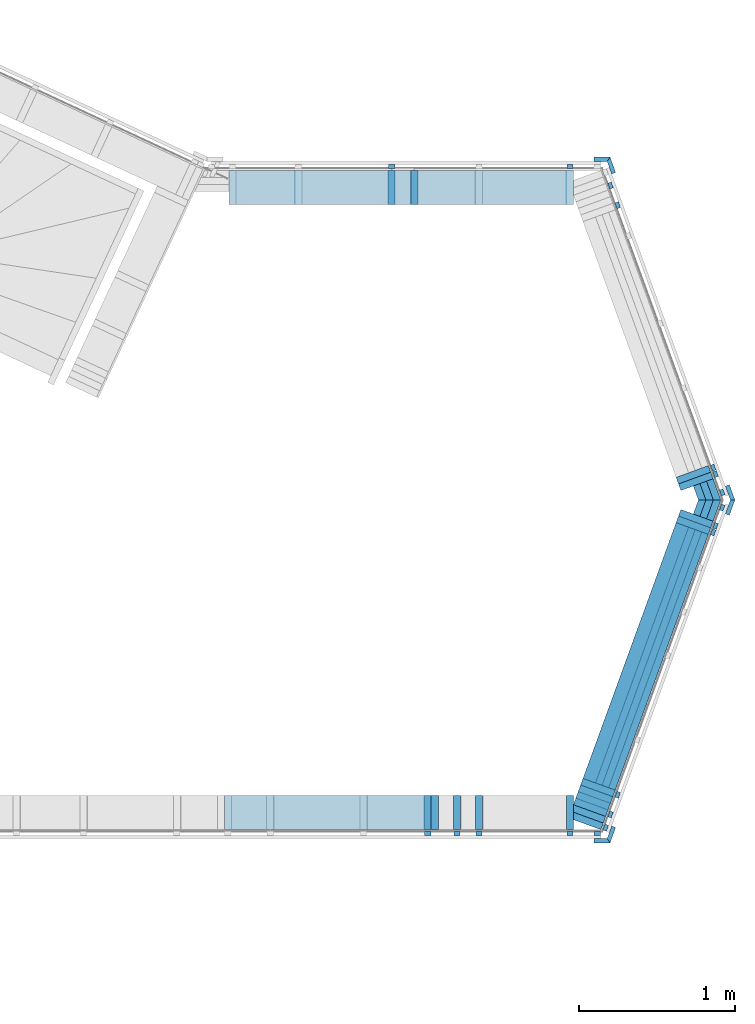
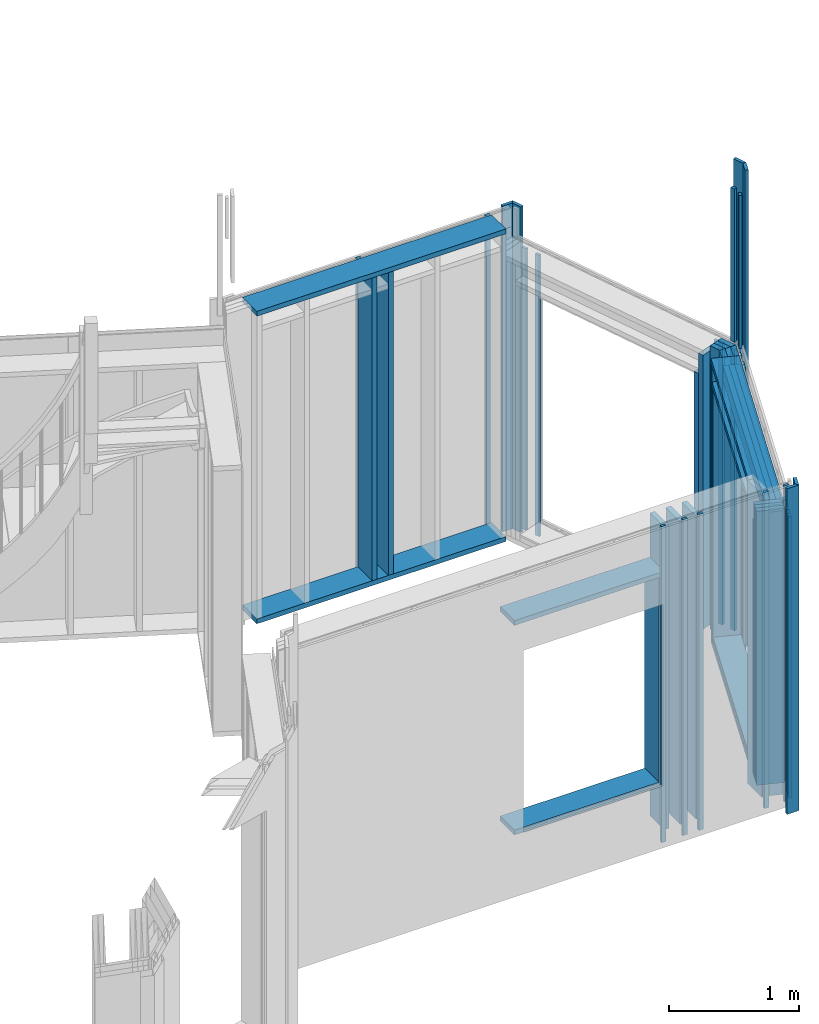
# One storey, part 16 of 34: 61 members.
"""IFC2X3 building model written with IfcOpenShell, lengths in metres."""

import ifcopenshell
import ifcopenshell.guid

model = None  # the IFC model being written
_history = None  # IfcOwnerHistory: only IFC2X3 demands one
_inside = {}  # id of a spatial element -> (the spatial element, [elements in it])
_under = {}  # id of a project, library or spatial element -> (it, [spatial elements below it])
_declared = {}  # id of a project -> (the project, [libraries it declares])
_typed = {}  # id of a type object -> (the type object, [elements of that type])
_made_of = {}  # id of a material, layer set ... -> (it, [elements and type objects made of it])


def new_model(schema):
    """Start an empty IFC model of exactly this schema.

    Asked for "IFC4X3", IfcOpenShell would pick the latest addendum, in which some entities
    have other attributes; the version numbers below select the first issue.
    IFC2X3 requires an IfcOwnerHistory on every rooted entity: one is made here for all.
    """
    global model, _history
    if schema == "IFC4X3":
        model = ifcopenshell.file(schema_version=(4, 3, 0, 0))
    else:
        model = ifcopenshell.file(schema=schema)
    _inside.clear()
    _under.clear()
    _declared.clear()
    _typed.clear()
    _made_of.clear()
    _history = None
    if model.schema == "IFC2X3":
        org = make("IfcOrganization", Name="unknown")
        user = make(
            "IfcPersonAndOrganization",
            ThePerson=make("IfcPerson", FamilyName="unknown"),
            TheOrganization=org,
        )
        app = make(
            "IfcApplication",
            ApplicationDeveloper=org,
            Version="unknown",
            ApplicationFullName="unknown",
            ApplicationIdentifier="unknown",
        )
        _history = make(
            "IfcOwnerHistory",
            OwningUser=user,
            OwningApplication=app,
            ChangeAction="ADDED",
            CreationDate=0,
        )
    return model


def make(cls, **values):
    """One entity of the class cls with the attributes given. An attribute that is None is left unset."""
    return model.create_entity(
        cls, **{name: value for name, value in values.items() if value is not None}
    )


def rooted(cls, **values):
    """An entity with a GlobalId (a new one), such as an element, a storey or a relation."""
    return make(cls, GlobalId=ifcopenshell.guid.new(), OwnerHistory=_history, **values)


def si_unit(unit_type, name, prefix=None):
    """IfcSIUnit, for example si_unit("LENGTHUNIT", "METRE", prefix="MILLI")."""
    return make("IfcSIUnit", UnitType=unit_type, Prefix=prefix, Name=name)


def assignment(units):
    """IfcUnitAssignment: the units of a project."""
    return None if units is None else make("IfcUnitAssignment", Units=units)


def point(xyz):
    """IfcCartesianPoint."""
    return None if xyz is None else make("IfcCartesianPoint", Coordinates=xyz)


def direction(xyz):
    """IfcDirection."""
    return None if xyz is None else make("IfcDirection", DirectionRatios=xyz)


def frame(location, z_axis=None, x_axis=None):
    """IfcAxis2Placement3D, a coordinate frame: its origin and axes. An axis left out is left unset."""
    return make(
        "IfcAxis2Placement3D",
        Location=point(location),
        Axis=direction(z_axis),
        RefDirection=direction(x_axis),
    )


def origin_with_axes():
    """The frame at (0, 0, 0) with the z axis (0, 0, 1) and the x axis (1, 0, 0) written out."""
    return frame((0.0, 0.0, 0.0), z_axis=(0.0, 0.0, 1.0), x_axis=(1.0, 0.0, 0.0))


def place(relative_to, where):
    """IfcLocalPlacement: puts the frame where relative to a parent placement (None: the world)."""
    return make(
        "IfcLocalPlacement", PlacementRelTo=relative_to, RelativePlacement=where
    )


def context(
    kind, dimensions, precision=None, world=None, true_north=None, identifier=None
):
    """IfcGeometricRepresentationContext, for example the 3D "Model" context."""
    return make(
        "IfcGeometricRepresentationContext",
        ContextIdentifier=identifier,
        ContextType=kind,
        CoordinateSpaceDimension=dimensions,
        Precision=precision,
        WorldCoordinateSystem=world,
        TrueNorth=true_north,
    )


def subcontext(parent, identifier, kind, view, scale=None):
    """IfcGeometricRepresentationSubContext, for example "Body" below "Model"."""
    return make(
        "IfcGeometricRepresentationSubContext",
        ContextIdentifier=identifier,
        ContextType=kind,
        ParentContext=parent,
        TargetScale=scale,
        TargetView=view,
    )


def project(units=None, contexts=None):
    """IfcProject with its units and contexts."""
    return rooted(
        "IfcProject",
        Name="project",
        RepresentationContexts=contexts,
        UnitsInContext=assignment(units),
    )


def spatial(cls, under=None, at=None, **own):
    """A site, building, storey or space (cls), placed at a placement, below another one or the project."""
    s = rooted(cls, ObjectPlacement=at, **own)
    if under is not None:
        _under.setdefault(under.id(), (under, []))[1].append(s)
    return s


def faces_of(points, faces, orient=None, outer=None):
    """IfcFace entities. A face is a list of loops; a loop is a list of indices into points, from 0.

    orient and outer hold one flag for each loop. By default every Orientation is true, the
    first loop of a face is its IfcFaceOuterBound and the others are IfcFaceBound.
    """
    made = []
    for i, loops in enumerate(faces):
        bounds = []
        for j, loop in enumerate(loops):
            is_outer = j == 0 if outer is None else outer[i][j]
            bounds.append(
                make(
                    "IfcFaceOuterBound" if is_outer else "IfcFaceBound",
                    Bound=make("IfcPolyLoop", Polygon=[points[k] for k in loop]),
                    Orientation=True if orient is None else orient[i][j],
                )
            )
        made.append(make("IfcFace", Bounds=bounds))
    return made


def faceted_brep(points, faces, orient=None, outer=None, voids=None):
    """IfcFacetedBrep: a solid bounded by flat faces; with voids (closed shells), ...WithVoids."""
    shared = [point(p) for p in points]
    hull = make("IfcClosedShell", CfsFaces=faces_of(shared, faces, orient, outer))
    if voids is None:
        return make("IfcFacetedBrep", Outer=hull)
    return make(
        "IfcFacetedBrepWithVoids",
        Outer=hull,
        Voids=[
            make(cls, CfsFaces=faces_of(shared, fs, o, b)) for cls, fs, o, b in voids
        ],
    )


def shape(context_of_items, identifier, shape_type, items):
    """IfcShapeRepresentation: the items that make up one representation, for example the "Body"."""
    return make(
        "IfcShapeRepresentation",
        ContextOfItems=context_of_items,
        RepresentationIdentifier=identifier,
        RepresentationType=shape_type,
        Items=items,
    )


def material(Name=None, Category=None):
    """IfcMaterial."""
    return make("IfcMaterial", Name=Name, Category=Category)


def made_of(thing, what):
    """Note that an element or type object is made of a material, layer set ...; save() writes the relation."""
    if what is not None:
        _made_of.setdefault(what.id(), (what, []))[1].append(thing)
    return thing


def element(
    cls,
    number,
    at=None,
    inside=None,
    cuts=None,
    type_object=None,
    material=None,
    context=None,
    identifier="Body",
    shape_type=None,
    held_by="IfcProductDefinitionShape",
    body=None,
    shapes=None,
    **own,
):
    """One element of the class cls, such as IfcWall. Its Tag is "e" and its number.

    at: its placement. inside: the storey or other place that contains it. cuts: it is an
    opening in that element (IfcRelVoidsElement). A single representation is given by context,
    identifier, shape_type and body (its items); several are given by shapes. held_by: the class
    of the entity that holds the representations. save() writes the other relations.
    """
    e = rooted(cls, Tag="e%d" % number, ObjectPlacement=at, **own)
    if body is not None:
        shapes = [shape(context, identifier, shape_type, body)]
    if shapes is not None:
        e.Representation = make(held_by, Representations=shapes)
    if inside is not None:
        _inside.setdefault(inside.id(), (inside, []))[1].append(e)
    if cuts is not None:
        rooted(
            "IfcRelVoidsElement", RelatingBuildingElement=cuts, RelatedOpeningElement=e
        )
    if type_object is not None:
        _typed.setdefault(type_object.id(), (type_object, []))[1].append(e)
    return made_of(e, material)


def aggregate(whole, parts):
    """IfcRelAggregates: a whole, such as a stair, and the parts it consists of."""
    return rooted("IfcRelAggregates", RelatingObject=whole, RelatedObjects=parts)


def save(model, path):
    """Write the relations noted so far, then the file.

    IfcRelAggregates (storeys below a building ...), IfcRelContainedInSpatialStructure (elements
    in a storey), IfcRelDefinesByType, IfcRelAssociatesMaterial and IfcRelDeclares: one each for
    every whole, place, type object, material and project.
    """
    for whole, parts in _under.values():
        aggregate(whole, parts)
    for where, things in _inside.values():
        rooted(
            "IfcRelContainedInSpatialStructure",
            RelatedElements=things,
            RelatingStructure=where,
        )
    for kind, things in _typed.values():
        rooted("IfcRelDefinesByType", RelatedObjects=things, RelatingType=kind)
    for what, things in _made_of.values():
        rooted("IfcRelAssociatesMaterial", RelatedObjects=things, RelatingMaterial=what)
    for by, libraries in _declared.values():
        rooted("IfcRelDeclares", RelatingContext=by, RelatedDefinitions=libraries)
    model.write(path)


model = new_model("IFC2X3")

# Units and contexts
model_context = context("Model", 3, precision=1e-06, world=origin_with_axes(), true_north=direction((0.0, 1.0, 0.0)))
body_context = subcontext(model_context, "Body", "Model", "MODEL_VIEW")
ifc_project = project(units=[si_unit("LENGTHUNIT", "METRE"), si_unit("AREAUNIT", "SQUARE_METRE"), si_unit("VOLUMEUNIT", "CUBIC_METRE"), si_unit("PLANEANGLEUNIT", "RADIAN")], contexts=[model_context])

# Site, building, storey
site_placement = place(None, origin_with_axes())
site = spatial("IfcSite", under=ifc_project, at=site_placement, CompositionType="ELEMENT")
building_placement = place(site_placement, origin_with_axes())
building = spatial("IfcBuilding", under=site, at=building_placement, Name="Building 1", CompositionType="ELEMENT")
storey_placement = place(building_placement, origin_with_axes())
storey = spatial("IfcBuildingStorey", under=building, at=storey_placement, Name="Rez de chaussée", CompositionType="ELEMENT", Elevation=0.0)

# Members
ifc_material_1 = material(Name="Epicéa C24")
member_1_placement = place(storey_placement, frame((18.475138, 1.8625167, 2.71), z_axis=(0.3420201, -0.9396926, 0.0), x_axis=(0.0, 0.0, -1.0)))
element("IfcMember", 1, at=member_1_placement, inside=storey, material=ifc_material_1, Name="Montant", context=body_context, shape_type="Brep", body=[
    faceted_brep([(0.0, 0.0225, 0.0643107), (2.665, 0.0225, 0.0643107), (2.665, 0.0225, -0.0643107), (0.0, 0.0225, -0.0643107), (2.665, -0.0225, -0.0643107), (0.0, -0.0225, -0.0643107), (2.665, -0.0225, 0.047932), (0.0, -0.0225, 0.047932)], [[[0, 1, 2, 3]], [[2, 4, 5, 3]], [[6, 7, 5, 4]], [[7, 0, 3, 5]], [[6, 1, 0, 7]], [[1, 6, 4, 2]]]),
])
member_2_placement = place(storey_placement, frame((18.3824237, 1.6265743, 0.1125), z_axis=(0.9396926, -0.3420201, 0.0), x_axis=(-0.3420201, -0.9396926, 0.0)))
element("IfcMember", 2, at=member_2_placement, inside=storey, material=ifc_material_1, Name="Montant", context=body_context, shape_type="Brep", body=[
    faceted_brep([(0.0, -0.0225, 0.11), (1.7489284, -0.0225, 0.11), (1.7489284, 0.0225, 0.11), (0.0, 0.0225, 0.11), (1.7489284, -0.0225, -0.11), (1.7489284, 0.0225, -0.11), (0.0, -0.0225, -0.11), (0.0, 0.0225, -0.11)], [[[0, 1, 2, 3]], [[1, 4, 5, 2]], [[5, 4, 6, 7]], [[4, 1, 0, 6]], [[7, 6, 0, 3]], [[2, 5, 7, 3]]]),
])
member_3_placement = place(storey_placement, frame((17.6193251, 3.8177799, 2.9575), z_axis=(0.0, -1.0, 0.0), x_axis=(-1.0, 0.0, 0.0)))
element("IfcMember", 3, at=member_3_placement, inside=storey, material=ifc_material_1, Name="Montant", context=body_context, shape_type="Brep", body=[
    faceted_brep([(2.2141942, 0.0225, 0.11), (2.2141942, -0.0225, 0.11), (2.2141942, -0.0225, -0.11), (2.2141942, 0.0225, -0.11), (0.0, -0.0225, -0.11), (0.0, -0.0225, 0.11), (0.0, 0.0225, -0.11), (0.0, 0.0225, 0.11)], [[[0, 1, 2, 3]], [[4, 2, 1, 5]], [[6, 3, 2, 4]], [[7, 0, 3, 6]], [[5, 1, 0, 7]], [[5, 7, 6, 4]]]),
])
member_4_placement = place(storey_placement, frame((17.9034179, 3.7037565, 2.65), z_axis=(0.9396926, 0.3420201, 0.0), x_axis=(0.0, 0.0, -1.0)))
element("IfcMember", 4, at=member_4_placement, inside=storey, material=ifc_material_1, Name="latte 27/40", context=body_context, shape_type="Brep", body=[
    faceted_brep([(0.0, 0.02, 0.012), (0.0, -0.02, 0.012), (2.645, -0.02, 0.012), (2.645, 0.02, 0.012), (2.645, -0.02, -0.012), (2.645, 0.02, -0.012), (0.0, 0.02, -0.012), (0.0, -0.02, -0.012)], [[[0, 1, 2, 3]], [[3, 2, 4, 5]], [[0, 3, 5, 6]], [[1, 0, 6, 7]], [[7, 6, 5, 4]], [[2, 1, 7, 4]]]),
])
member_5_placement = place(storey_placement, frame((17.8264634, -0.2956275, 2.65), z_axis=(0.9396926, -0.3420201, 0.0), x_axis=(0.0, 0.0, -1.0)))
element("IfcMember", 5, at=member_5_placement, inside=storey, material=ifc_material_1, Name="latte chantier", context=body_context, shape_type="Brep", body=[
    faceted_brep([(2.645, -0.02, 0.012), (2.645, 0.02, 0.012), (0.0, 0.02, 0.012), (0.0, -0.02, 0.012), (0.0, 0.02, -0.012), (0.0, -0.02, -0.012), (2.645, 0.02, -0.012), (2.645, -0.02, -0.012)], [[[0, 1, 2, 3]], [[3, 2, 4, 5]], [[2, 1, 6, 4]], [[1, 0, 7, 6]], [[6, 7, 5, 4]], [[0, 3, 5, 7]]]),
])
ifc_material_2 = material(Name="NH II")
member_6_placement = place(storey_placement, frame((18.6259778, 1.8544964, -0.08), z_axis=(-0.3420201, 0.9396926, 0.0), x_axis=(0.0, 0.0, 1.0)))
element("IfcMember", 6, at=member_6_placement, inside=storey, material=ifc_material_2, Name="Couvre joint", context=body_context, shape_type="Brep", body=[
    faceted_brep([(0.0, -0.0135, -0.0426728), (0.0, 0.0135, -0.0525), (4.4753223, 0.0135, -0.0525), (4.4753223, -0.0135, -0.0426728), (0.0, -0.0135, 0.0525), (0.0, 0.0135, 0.0525), (4.4753223, 0.0135, 0.0525), (4.4753223, -0.0135, 0.0525)], [[[0, 1, 2, 3]], [[1, 0, 4, 5]], [[3, 2, 6, 7]], [[0, 3, 7, 4]], [[6, 5, 4, 7]], [[2, 1, 5, 6]]]),
])
member_7_placement = place(storey_placement, frame((18.6259778, 1.7650633, -0.08), z_axis=(-0.3420201, -0.9396926, 0.0), x_axis=(0.0, 0.0, 1.0)))
element("IfcMember", 7, at=member_7_placement, inside=storey, material=ifc_material_2, Name="Couvre joint", context=body_context, shape_type="Brep", body=[
    faceted_brep([(0.0, -0.0135, -0.0525), (0.0, 0.0135, -0.0426728), (4.4753223, 0.0135, -0.0426728), (4.4753223, -0.0135, -0.0525), (0.0, 0.0135, 0.0525), (4.4753223, 0.0135, 0.0525), (0.0, -0.0135, 0.0525), (4.4753223, -0.0135, 0.0525)], [[[0, 1, 2, 3]], [[2, 1, 4, 5]], [[1, 0, 6, 4]], [[3, 2, 5, 7]], [[7, 6, 0, 3]], [[5, 4, 6, 7]]]),
])
member_8_placement = place(storey_placement, frame((17.8600635, -0.3392689, -0.08), z_axis=(-0.3420201, -0.9396926, 0.0), x_axis=(0.0, 0.0, 1.0)))
element("IfcMember", 8, at=member_8_placement, inside=storey, material=ifc_material_2, Name="Couvre joint", context=body_context, shape_type="Brep", body=[
    faceted_brep([(0.0, 0.0135, 0.0335944), (0.0, -0.0135, 0.0525), (3.06, -0.0135, 0.0525), (3.06, 0.0135, 0.0335944), (0.0, 0.0135, -0.0525), (0.0, -0.0135, -0.0525), (3.06, -0.0135, -0.0525), (3.06, 0.0135, -0.0525)], [[[0, 1, 2, 3]], [[1, 0, 4, 5]], [[3, 2, 6, 7]], [[6, 5, 4, 7]], [[2, 1, 5, 6]], [[0, 3, 7, 4]]]),
])
member_9_placement = place(storey_placement, frame((16.6830365, -0.33322, 2.975), z_axis=(0.0, -1.0, 0.0), x_axis=(0.0, 0.0, -1.0)))
element("IfcMember", 9, at=member_9_placement, inside=storey, material=ifc_material_1, Name="latte 27/40", context=body_context, shape_type="Brep", body=[
    faceted_brep([(2.97, -0.02, 0.012), (2.97, 0.02, 0.012), (0.0, 0.02, 0.012), (0.0, -0.02, 0.012), (0.0, 0.02, -0.012), (0.0, -0.02, -0.012), (2.97, 0.02, -0.012), (2.97, -0.02, -0.012)], [[[0, 1, 2, 3]], [[3, 2, 4, 5]], [[2, 1, 6, 4]], [[1, 0, 7, 6]], [[6, 7, 5, 4]], [[0, 3, 5, 7]]]),
])
member_10_placement = place(storey_placement, frame((17.8022933, -0.3797201, -0.08), z_axis=(-1.0, 0.0, 0.0), x_axis=(0.0, 0.0, 1.0)))
element("IfcMember", 10, at=member_10_placement, inside=storey, material=ifc_material_2, Name="Couvre joint", context=body_context, shape_type="Brep", body=[
    faceted_brep([(0.0, -0.0135, -0.0525), (0.0, 0.0135, -0.0335944), (3.06, 0.0135, -0.0335944), (3.06, -0.0135, -0.0525), (0.0, 0.0135, 0.0525), (3.06, 0.0135, 0.0525), (0.0, -0.0135, 0.0525), (3.06, -0.0135, 0.0525)], [[[0, 1, 2, 3]], [[2, 1, 4, 5]], [[1, 0, 6, 4]], [[3, 2, 5, 7]], [[7, 6, 0, 3]], [[5, 4, 6, 7]]]),
])
member_11_placement = place(storey_placement, frame((17.8022933, 3.9992799, -0.08), z_axis=(-1.0, 0.0, 0.0), x_axis=(0.0, 0.0, 1.0)))
element("IfcMember", 11, at=member_11_placement, inside=storey, material=ifc_material_2, Name="Couvre joint", context=body_context, shape_type="Brep", body=[
    faceted_brep([(0.0, 0.0135, -0.0525), (3.06, 0.0135, -0.0525), (3.06, -0.0135, -0.0335944), (0.0, -0.0135, -0.0335944), (3.06, -0.0135, 0.0525), (0.0, -0.0135, 0.0525), (3.06, 0.0135, 0.0525), (0.0, 0.0135, 0.0525)], [[[0, 1, 2, 3]], [[3, 2, 4, 5]], [[2, 1, 6, 4]], [[0, 3, 5, 7]], [[6, 7, 5, 4]], [[1, 0, 7, 6]]]),
])
member_12_placement = place(storey_placement, frame((17.8600635, 3.9588288, -0.08), z_axis=(-0.3420201, 0.9396926, 0.0), x_axis=(0.0, 0.0, 1.0)))
element("IfcMember", 12, at=member_12_placement, inside=storey, material=ifc_material_2, Name="Couvre joint", context=body_context, shape_type="Brep", body=[
    faceted_brep([(0.0, 0.0135, 0.0525), (0.0, -0.0135, 0.0335944), (3.06, -0.0135, 0.0335944), (3.06, 0.0135, 0.0525), (0.0, -0.0135, -0.0525), (3.06, -0.0135, -0.0525), (0.0, 0.0135, -0.0525), (3.06, 0.0135, -0.0525)], [[[0, 1, 2, 3]], [[2, 1, 4, 5]], [[1, 0, 6, 4]], [[3, 2, 5, 7]], [[5, 4, 6, 7]], [[7, 6, 0, 3]]]),
])
member_13_placement = place(storey_placement, frame((17.012216, -0.19822, 2.935), z_axis=(0.0, -1.0, 0.0), x_axis=(0.0, 0.0, -1.0)))
element("IfcMember", 13, at=member_13_placement, inside=storey, material=ifc_material_1, Name="Montant", context=body_context, shape_type="Brep", body=[
    faceted_brep([(2.845, -0.0225, -0.11), (2.845, 0.0225, -0.11), (2.845, 0.0225, 0.11), (2.845, -0.0225, 0.11), (0.0, -0.0225, 0.11), (0.0, -0.0225, -0.11), (0.0, 0.0225, -0.11), (0.0, 0.0225, 0.11)], [[[0, 1, 2, 3]], [[0, 3, 4, 5]], [[1, 0, 5, 6]], [[2, 1, 6, 7]], [[3, 2, 7, 4]], [[4, 7, 6, 5]]]),
])
member_14_placement = place(storey_placement, frame((17.012216, -0.33322, 2.975), z_axis=(0.0, -1.0, 0.0), x_axis=(0.0, 0.0, -1.0)))
element("IfcMember", 14, at=member_14_placement, inside=storey, material=ifc_material_1, Name="latte 27/40", context=body_context, shape_type="Brep", body=[
    faceted_brep([(2.97, -0.02, 0.012), (2.97, 0.02, 0.012), (0.0, 0.02, 0.012), (0.0, -0.02, 0.012), (0.0, 0.02, -0.012), (0.0, -0.02, -0.012), (2.97, 0.02, -0.012), (2.97, -0.02, -0.012)], [[[0, 1, 2, 3]], [[3, 2, 4, 5]], [[2, 1, 6, 4]], [[1, 0, 7, 6]], [[6, 7, 5, 4]], [[0, 3, 5, 7]]]),
])
member_15_placement = place(storey_placement, frame((18.3901191, 1.6477174, 2.475), z_axis=(0.9396926, -0.3420201, 0.0), x_axis=(0.0, 0.0, -1.0)))
element("IfcMember", 15, at=member_15_placement, inside=storey, material=ifc_material_1, Name="Montant", context=body_context, shape_type="Brep", body=[
    faceted_brep([(2.385, -0.0225, -0.11), (2.385, 0.0225, -0.11), (2.385, 0.0225, 0.11), (2.385, -0.0225, 0.11), (0.0, -0.0225, 0.11), (0.0, -0.0225, -0.11), (0.0, 0.0225, -0.11), (0.0, 0.0225, 0.11)], [[[0, 1, 2, 3]], [[0, 3, 4, 5]], [[1, 0, 5, 6]], [[2, 1, 6, 7]], [[3, 2, 7, 4]], [[4, 7, 6, 5]]]),
])
member_16_placement = place(storey_placement, frame((17.5968251, 3.9527799, 2.975), z_axis=(0.0, 1.0, 0.0), x_axis=(0.0, 0.0, -1.0)))
element("IfcMember", 16, at=member_16_placement, inside=storey, material=ifc_material_1, Name="latte 27/40", context=body_context, shape_type="Brep", body=[
    faceted_brep([(2.97, -0.02, 0.012), (2.97, 0.02, 0.012), (0.0, 0.02, 0.012), (0.0, -0.02, 0.012), (0.0, 0.02, -0.012), (0.0, -0.02, -0.012), (2.97, 0.02, -0.012), (2.97, -0.02, -0.012)], [[[0, 1, 2, 3]], [[3, 2, 4, 5]], [[2, 1, 6, 4]], [[1, 0, 7, 6]], [[6, 7, 5, 4]], [[0, 3, 5, 7]]]),
])
member_17_placement = place(storey_placement, frame((16.7280365, -0.19822, 2.935), z_axis=(0.0, -1.0, 0.0), x_axis=(0.0, 0.0, -1.0)))
element("IfcMember", 17, at=member_17_placement, inside=storey, material=ifc_material_1, Name="Montant", context=body_context, shape_type="Brep", body=[
    faceted_brep([(2.845, -0.0225, -0.11), (2.845, 0.0225, -0.11), (2.845, 0.0225, 0.11), (2.845, -0.0225, 0.11), (0.0, -0.0225, 0.11), (0.0, -0.0225, -0.11), (0.0, 0.0225, -0.11), (0.0, 0.0225, 0.11)], [[[0, 1, 2, 3]], [[0, 3, 4, 5]], [[1, 0, 5, 6]], [[2, 1, 6, 7]], [[3, 2, 7, 4]], [[4, 7, 6, 5]]]),
])
for number, where, z_axis, x_axis, name in (
    (18, (16.7055365, -0.19822, 2.4975), (0.0, -1.0, 0.0), (-1.0, 0.0, 0.0), "Montant"),
    (19, (16.7055365, -0.19822, 0.5295), (0.0, -1.0, 0.0), (-1.0, 0.0, 0.0), "Montant"),
):
    element("IfcMember", number, at=place(storey_placement, frame(where, z_axis=z_axis, x_axis=x_axis)), inside=storey, material=ifc_material_1, Name=name, context=body_context, shape_type="Brep", body=[
        faceted_brep([(0.0, 0.0225, -0.11), (0.0, -0.0225, -0.11), (0.0, -0.0225, 0.11), (0.0, 0.0225, 0.11), (1.33, 0.0225, -0.11), (1.33, -0.0225, -0.11), (1.33, 0.0225, 0.11), (1.33, -0.0225, 0.11)], [[[0, 1, 2, 3]], [[1, 0, 4, 5]], [[0, 3, 6, 4]], [[5, 4, 6, 7]], [[2, 1, 5, 7]], [[3, 2, 7, 6]]]),
    ])
member_18_placement = place(storey_placement, frame((16.6830365, -0.19822, 2.475), z_axis=(0.0, -1.0, 0.0), x_axis=(0.0, 0.0, -1.0)))
element("IfcMember", 20, at=member_18_placement, inside=storey, material=ifc_material_1, Name="Montant", context=body_context, shape_type="Brep", body=[
    faceted_brep([(1.923, -0.0225, -0.11), (1.923, -0.0225, 0.11), (0.0, -0.0225, 0.11), (0.0, -0.0225, -0.11), (1.923, 0.0225, -0.11), (0.0, 0.0225, -0.11), (1.923, 0.0225, 0.11), (0.0, 0.0225, 0.11)], [[[0, 1, 2, 3]], [[4, 0, 3, 5]], [[6, 4, 5, 7]], [[1, 6, 7, 2]], [[0, 4, 6, 1]], [[2, 7, 5, 3]]]),
])
member_19_placement = place(storey_placement, frame((17.903418, -0.0841966, 2.65), z_axis=(0.9396926, -0.3420201, 0.0), x_axis=(0.0, 0.0, -1.0)))
element("IfcMember", 21, at=member_19_placement, inside=storey, material=ifc_material_1, Name="latte 27/40", context=body_context, shape_type="Brep", body=[
    faceted_brep([(2.645, -0.02, 0.012), (2.645, 0.02, 0.012), (0.0, 0.02, 0.012), (0.0, -0.02, 0.012), (0.0, 0.02, -0.012), (0.0, -0.02, -0.012), (2.645, 0.02, -0.012), (2.645, -0.02, -0.012)], [[[0, 1, 2, 3]], [[3, 2, 4, 5]], [[2, 1, 6, 4]], [[1, 0, 7, 6]], [[6, 7, 5, 4]], [[0, 3, 5, 7]]]),
])
member_20_placement = place(storey_placement, frame((17.7611686, -0.0803101, 2.665), z_axis=(0.9396926, -0.3420201, 0.0), x_axis=(0.0, 0.0, -1.0)))
element("IfcMember", 22, at=member_20_placement, inside=storey, material=ifc_material_1, Name="Montant", context=body_context, shape_type="Brep", body=[
    faceted_brep([(2.575, -0.0225, -0.11), (2.575, 0.0225, -0.11), (2.575, 0.0225, 0.11), (2.575, -0.0225, 0.11), (0.0, -0.0225, 0.11), (0.0, -0.0225, -0.11), (0.0, 0.0225, -0.11), (0.0, 0.0225, 0.11)], [[[0, 1, 2, 3]], [[0, 3, 4, 5]], [[1, 0, 5, 6]], [[2, 1, 6, 7]], [[3, 2, 7, 4]], [[4, 7, 6, 5]]]),
])
member_21_placement = place(storey_placement, frame((18.3901191, 1.9718423, 2.475), z_axis=(0.9396926, 0.3420201, 0.0), x_axis=(0.0, 0.0, -1.0)))
element("IfcMember", 23, at=member_21_placement, inside=storey, material=ifc_material_1, Name="Montant", context=body_context, shape_type="Brep", body=[
    faceted_brep([(2.385, -0.0225, -0.11), (2.385, 0.0225, -0.11), (2.385, 0.0225, 0.11), (2.385, -0.0225, 0.11), (0.0, 0.0225, -0.11), (0.0, 0.0225, 0.11), (0.0, -0.0225, -0.11), (0.0, -0.0225, 0.11)], [[[0, 1, 2, 3]], [[2, 1, 4, 5]], [[1, 0, 6, 4]], [[0, 3, 7, 6]], [[3, 2, 5, 7]], [[7, 5, 4, 6]]]),
])
member_22_placement = place(storey_placement, frame((18.3824237, 1.6265743, 0.1435), z_axis=(0.9396926, -0.3420201, 0.0), x_axis=(-0.3420201, -0.9396926, 0.0)))
element("IfcMember", 24, at=member_22_placement, inside=storey, material=ifc_material_1, Name="Montant", context=body_context, shape_type="Brep", body=[
    faceted_brep([(0.0, -0.0085, 0.11), (1.7489284, -0.0085, 0.11), (1.7489284, 0.0085, 0.11), (0.0, 0.0085, 0.11), (0.0, -0.0085, -0.11), (1.7489284, -0.0085, -0.11), (0.0, 0.0085, -0.11), (1.7489284, 0.0085, -0.11)], [[[0, 1, 2, 3]], [[0, 4, 5, 1]], [[4, 0, 3, 6]], [[1, 5, 7, 2]], [[2, 7, 6, 3]], [[5, 4, 6, 7]]]),
])
member_23_placement = place(storey_placement, frame((17.7765595, -0.0380239, 2.475), z_axis=(0.9396926, -0.3420201, 0.0), x_axis=(0.0, 0.0, -1.0)))
element("IfcMember", 25, at=member_23_placement, inside=storey, material=ifc_material_1, Name="Montant", context=body_context, shape_type="Brep", body=[
    faceted_brep([(2.385, -0.0225, -0.11), (2.385, 0.0225, -0.11), (2.385, 0.0225, 0.11), (2.385, -0.0225, 0.11), (0.0, -0.0225, 0.11), (0.0, -0.0225, -0.11), (0.0, 0.0225, -0.11), (0.0, 0.0225, 0.11)], [[[0, 1, 2, 3]], [[0, 3, 4, 5]], [[1, 0, 5, 6]], [[2, 1, 6, 7]], [[3, 2, 7, 4]], [[4, 7, 6, 5]]]),
])
member_24_placement = place(storey_placement, frame((18.40551, 1.6900035, 2.665), z_axis=(0.9396926, -0.3420201, 0.0), x_axis=(0.0, 0.0, -1.0)))
element("IfcMember", 26, at=member_24_placement, inside=storey, material=ifc_material_1, Name="Montant", context=body_context, shape_type="Brep", body=[
    faceted_brep([(2.575, -0.0225, -0.11), (2.575, 0.0225, -0.11), (2.575, 0.0225, 0.11), (2.575, -0.0225, 0.11), (0.0, -0.0225, 0.11), (0.0, -0.0225, -0.11), (0.0, 0.0225, -0.11), (0.0, 0.0225, 0.11)], [[[0, 1, 2, 3]], [[0, 3, 4, 5]], [[1, 0, 5, 6]], [[2, 1, 6, 7]], [[3, 2, 7, 4]], [[4, 7, 6, 5]]]),
])
member_25_placement = place(storey_placement, frame((18.5169776, 1.6015447, 2.65), z_axis=(0.9396926, -0.3420201, 0.0), x_axis=(0.0, 0.0, -1.0)))
element("IfcMember", 27, at=member_25_placement, inside=storey, material=ifc_material_1, Name="latte 27/40", context=body_context, shape_type="Brep", body=[
    faceted_brep([(2.645, -0.02, 0.012), (2.645, 0.02, 0.012), (0.0, 0.02, 0.012), (0.0, -0.02, 0.012), (0.0, 0.02, -0.012), (0.0, -0.02, -0.012), (2.645, 0.02, -0.012), (2.645, -0.02, -0.012)], [[[0, 1, 2, 3]], [[3, 2, 4, 5]], [[2, 1, 6, 4]], [[1, 0, 7, 6]], [[6, 7, 5, 4]], [[0, 3, 5, 7]]]),
])
member_26_placement = place(storey_placement, frame((16.8708032, -0.19822, 2.935), z_axis=(0.0, -1.0, 0.0), x_axis=(0.0, 0.0, -1.0)))
element("IfcMember", 28, at=member_26_placement, inside=storey, material=ifc_material_1, Name="Montant", context=body_context, shape_type="Brep", body=[
    faceted_brep([(2.845, -0.0225, -0.11), (2.845, 0.0225, -0.11), (2.845, 0.0225, 0.11), (2.845, -0.0225, 0.11), (0.0, -0.0225, 0.11), (0.0, -0.0225, -0.11), (0.0, 0.0225, -0.11), (0.0, 0.0225, 0.11)], [[[0, 1, 2, 3]], [[0, 3, 4, 5]], [[1, 0, 5, 6]], [[2, 1, 6, 7]], [[3, 2, 7, 4]], [[4, 7, 6, 5]]]),
])
member_27_placement = place(storey_placement, frame((17.7303868, -0.1648824, 2.665), z_axis=(0.9396926, -0.3420201, 0.0), x_axis=(0.0, 0.0, -1.0)))
element("IfcMember", 29, at=member_27_placement, inside=storey, material=ifc_material_1, Name="Montant", context=body_context, shape_type="Brep", body=[
    faceted_brep([(2.575, -0.0225, -0.11), (2.575, 0.0225, -0.11), (2.575, 0.0225, 0.11), (2.575, -0.0225, 0.11), (0.0, -0.0225, 0.11), (0.0, -0.0225, -0.11), (0.0, 0.0225, -0.11), (0.0, 0.0225, 0.11)], [[[0, 1, 2, 3]], [[0, 3, 4, 5]], [[1, 0, 5, 6]], [[2, 1, 6, 7]], [[3, 2, 7, 4]], [[4, 7, 6, 5]]]),
])
member_28_placement = place(storey_placement, frame((16.8708032, -0.33322, 2.975), z_axis=(0.0, -1.0, 0.0), x_axis=(0.0, 0.0, -1.0)))
element("IfcMember", 30, at=member_28_placement, inside=storey, material=ifc_material_1, Name="latte 27/40", context=body_context, shape_type="Brep", body=[
    faceted_brep([(2.97, -0.02, 0.012), (2.97, 0.02, 0.012), (0.0, 0.02, 0.012), (0.0, -0.02, 0.012), (0.0, 0.02, -0.012), (0.0, -0.02, -0.012), (2.97, 0.02, -0.012), (2.97, -0.02, -0.012)], [[[0, 1, 2, 3]], [[3, 2, 4, 5]], [[2, 1, 6, 4]], [[1, 0, 7, 6]], [[6, 7, 5, 4]], [[0, 3, 5, 7]]]),
])
member_29_placement = place(storey_placement, frame((17.8572453, -0.2110551, 2.65), z_axis=(0.9396926, -0.3420201, 0.0), x_axis=(0.0, 0.0, -1.0)))
element("IfcMember", 31, at=member_29_placement, inside=storey, material=ifc_material_1, Name="latte 27/40", context=body_context, shape_type="Brep", body=[
    faceted_brep([(2.645, -0.02, 0.012), (2.645, 0.02, 0.012), (0.0, 0.02, 0.012), (0.0, -0.02, 0.012), (0.0, 0.02, -0.012), (0.0, -0.02, -0.012), (2.645, 0.02, -0.012), (2.645, -0.02, -0.012)], [[[0, 1, 2, 3]], [[3, 2, 4, 5]], [[2, 1, 6, 4]], [[1, 0, 7, 6]], [[6, 7, 5, 4]], [[0, 3, 5, 7]]]),
])
member_30_placement = place(storey_placement, frame((18.40551, 1.9295562, 2.665), z_axis=(0.9396926, 0.3420201, 0.0), x_axis=(0.0, 0.0, -1.0)))
element("IfcMember", 32, at=member_30_placement, inside=storey, material=ifc_material_1, Name="Montant", context=body_context, shape_type="Brep", body=[
    faceted_brep([(2.575, -0.0225, -0.11), (2.575, 0.0225, -0.11), (2.575, 0.0225, 0.11), (2.575, -0.0225, 0.11), (0.0, 0.0225, -0.11), (0.0, 0.0225, 0.11), (0.0, -0.0225, -0.11), (0.0, -0.0225, 0.11)], [[[0, 1, 2, 3]], [[2, 1, 4, 5]], [[1, 0, 6, 4]], [[0, 3, 7, 6]], [[3, 2, 5, 7]], [[7, 5, 4, 6]]]),
])
member_31_placement = place(storey_placement, frame((18.5202251, 1.8702121, 2.71), z_axis=(0.3420201, -0.9396926, 0.0), x_axis=(0.0, 0.0, -1.0)))
element("IfcMember", 33, at=member_31_placement, inside=storey, material=ifc_material_1, Name="Montant", context=body_context, shape_type="Brep", body=[
    faceted_brep([(0.0, 0.0225, 0.0725), (2.665, 0.0225, 0.0725), (2.665, 0.0225, -0.0725), (0.0, 0.0225, -0.0725), (2.665, -0.0225, -0.0725), (0.0, -0.0225, -0.0725), (2.665, -0.0225, 0.0561213), (0.0, -0.0225, 0.0561213)], [[[0, 1, 2, 3]], [[2, 4, 5, 3]], [[6, 7, 5, 4]], [[7, 0, 3, 5]], [[6, 1, 0, 7]], [[1, 6, 4, 2]]]),
])
member_32_placement = place(storey_placement, frame((18.5751211, 1.7612924, 4.1553223), z_axis=(0.9396926, -0.3420201, 0.0), x_axis=(0.0, 0.0, -1.0)))
element("IfcMember", 34, at=member_32_placement, inside=storey, material=ifc_material_1, Name="latte chantier", context=body_context, shape_type="Brep", body=[
    faceted_brep([(1.4403223, 0.02, -0.012), (1.4403223, 0.02, 0.012), (1.4403223, -0.02, 0.012), (1.4403223, -0.02, -0.012), (0.0, 0.02, 0.012), (0.0, 0.02, -0.012), (0.0, -0.02, -0.012), (0.0, -0.02, 0.012)], [[[0, 1, 2, 3]], [[4, 5, 6, 7]], [[3, 6, 5, 0]], [[2, 7, 6, 3]], [[1, 4, 7, 2]], [[0, 5, 4, 1]]]),
])
member_33_placement = place(storey_placement, frame((17.8572452, 3.830615, 2.65), z_axis=(0.9396926, 0.3420201, 0.0), x_axis=(0.0, 0.0, -1.0)))
element("IfcMember", 35, at=member_33_placement, inside=storey, material=ifc_material_1, Name="latte 27/40", context=body_context, shape_type="Brep", body=[
    faceted_brep([(0.0, 0.02, 0.012), (0.0, -0.02, 0.012), (2.645, -0.02, 0.012), (2.645, 0.02, 0.012), (2.645, -0.02, -0.012), (2.645, 0.02, -0.012), (0.0, 0.02, -0.012), (0.0, -0.02, -0.012)], [[[0, 1, 2, 3]], [[3, 2, 4, 5]], [[0, 3, 5, 6]], [[1, 0, 6, 7]], [[7, 6, 5, 4]], [[2, 1, 7, 4]]]),
])
member_34_placement = place(storey_placement, frame((17.7457777, -0.1225962, 2.665), z_axis=(0.9396926, -0.3420201, 0.0), x_axis=(0.0, 0.0, -1.0)))
element("IfcMember", 36, at=member_34_placement, inside=storey, material=ifc_material_1, Name="Montant", context=body_context, shape_type="Brep", body=[
    faceted_brep([(2.575, -0.0225, -0.11), (2.575, 0.0225, -0.11), (2.575, 0.0225, 0.11), (2.575, -0.0225, 0.11), (0.0, -0.0225, 0.11), (0.0, -0.0225, -0.11), (0.0, 0.0225, -0.11), (0.0, 0.0225, 0.11)], [[[0, 1, 2, 3]], [[0, 3, 4, 5]], [[1, 0, 5, 6]], [[2, 1, 6, 7]], [[3, 2, 7, 4]], [[4, 7, 6, 5]]]),
])
member_35_placement = place(storey_placement, frame((18.4300509, 1.7647385, 0.045), z_axis=(0.3420201, 0.9396926, 0.0), x_axis=(0.0, 0.0, 1.0)))
element("IfcMember", 37, at=member_35_placement, inside=storey, material=ifc_material_1, Name="Montant", context=body_context, shape_type="Brep", body=[
    faceted_brep([(0.0, 0.0225, 0.0561213), (2.665, 0.0225, 0.0561213), (2.665, 0.0225, -0.0561213), (0.0, 0.0225, -0.0561213), (0.0, -0.0225, -0.0561213), (2.665, -0.0225, -0.0561213), (2.665, -0.0225, 0.0397427), (0.0, -0.0225, 0.0397427)], [[[0, 1, 2, 3]], [[4, 3, 2, 5]], [[6, 7, 4, 5]], [[1, 6, 5, 2]], [[0, 7, 6, 1]], [[7, 0, 3, 4]]]),
])
member_36_placement = place(storey_placement, frame((17.7226913, -0.1860255, 0.0675), z_axis=(-0.9396926, 0.3420201, 0.0), x_axis=(0.3420201, 0.9396926, 0.0)))
element("IfcMember", 38, at=member_36_placement, inside=storey, material=ifc_material_1, Name="Lisse basse", context=body_context, shape_type="Brep", body=[
    faceted_brep([(2.0189284, -0.0225, -0.11), (0.0, -0.0225, -0.11), (0.0, 0.0225, -0.11), (2.0189284, 0.0225, -0.11), (2.0189284, 0.0225, 0.11), (2.0189284, -0.0225, 0.11), (0.0, -0.0225, 0.11), (0.0, 0.0225, 0.11)], [[[0, 1, 2, 3]], [[4, 5, 0, 3]], [[5, 6, 1, 0]], [[7, 4, 3, 2]], [[6, 5, 4, 7]], [[6, 7, 2, 1]]]),
])
for number, where, z_axis, x_axis, name in (
    (39, (18.5323685, 1.9757289, 2.65), (0.9396926, 0.3420201, 0.0), (0.0, 0.0, -1.0), "latte 27/40"),
    (40, (18.5169776, 2.018015, 2.65), (0.9396926, 0.3420201, 0.0), (0.0, 0.0, -1.0), "latte 27/40"),
):
    element("IfcMember", number, at=place(storey_placement, frame(where, z_axis=z_axis, x_axis=x_axis)), inside=storey, material=ifc_material_1, Name=name, context=body_context, shape_type="Brep", body=[
        faceted_brep([(0.0, 0.02, 0.012), (0.0, -0.02, 0.012), (2.645, -0.02, 0.012), (2.645, 0.02, 0.012), (2.645, -0.02, -0.012), (2.645, 0.02, -0.012), (0.0, 0.02, -0.012), (0.0, -0.02, -0.012)], [[[0, 1, 2, 3]], [[3, 2, 4, 5]], [[0, 3, 5, 6]], [[1, 0, 6, 7]], [[7, 6, 5, 4]], [[2, 1, 7, 4]]]),
    ])
for number, where, z_axis, x_axis, name in (
    (41, (18.3954653, 1.6697155, 2.5925), (0.0, 0.0, -1.0), (-0.3420201, -0.9396926, 0.0), "Montant"),
    (42, (18.4800377, 1.6389337, 2.5925), (0.0, 0.0, -1.0), (-0.3420201, -0.9396926, 0.0), "Montant"),
    (43, (18.4377515, 1.6543246, 2.5925), (0.0, 0.0, -1.0), (-0.3420201, -0.9396926, 0.0), "Montant"),
):
    element("IfcMember", number, at=place(storey_placement, frame(where, z_axis=z_axis, x_axis=x_axis)), inside=storey, material=ifc_material_1, Name=name, context=body_context, shape_type="Brep", body=[
        faceted_brep([(1.8389284, 0.0225, -0.0725), (1.8389284, 0.0225, 0.0725), (1.8389284, -0.0225, 0.0725), (1.8389284, -0.0225, -0.0725), (0.0, 0.0225, 0.0725), (0.0, 0.0225, -0.0725), (0.0, -0.0225, -0.0725), (0.0, -0.0225, 0.0725)], [[[0, 1, 2, 3]], [[4, 5, 6, 7]], [[3, 6, 5, 0]], [[2, 7, 6, 3]], [[1, 4, 7, 2]], [[0, 5, 4, 1]]]),
    ])
member_37_placement = place(storey_placement, frame((18.5751211, 1.8582673, 2.65), z_axis=(0.9396926, 0.3420201, 0.0), x_axis=(0.0, 0.0, -1.0)))
element("IfcMember", 44, at=member_37_placement, inside=storey, material=ifc_material_1, Name="latte chantier", context=body_context, shape_type="Brep", body=[
    faceted_brep([(0.0, 0.02, 0.012), (0.0, -0.02, 0.012), (2.645, -0.02, 0.012), (2.645, 0.02, 0.012), (2.645, -0.02, -0.012), (2.645, 0.02, -0.012), (0.0, 0.02, -0.012), (0.0, -0.02, -0.012)], [[[0, 1, 2, 3]], [[3, 2, 4, 5]], [[0, 3, 5, 6]], [[1, 0, 6, 7]], [[7, 6, 5, 4]], [[2, 1, 7, 4]]]),
])
member_38_placement = place(storey_placement, frame((18.3978146, 1.6688605, 2.4975), z_axis=(0.9396926, -0.3420201, 0.0), x_axis=(-0.3420201, -0.9396926, 0.0)))
element("IfcMember", 45, at=member_38_placement, inside=storey, material=ifc_material_1, Name="Montant", context=body_context, shape_type="Brep", body=[
    faceted_brep([(0.0, -0.0225, 0.11), (1.8389284, -0.0225, 0.11), (1.8389284, 0.0225, 0.11), (0.0, 0.0225, 0.11), (1.8389284, -0.0225, -0.11), (1.8389284, 0.0225, -0.11), (0.0, -0.0225, -0.11), (0.0, 0.0225, -0.11)], [[[0, 1, 2, 3]], [[1, 4, 5, 2]], [[5, 4, 6, 7]], [[4, 1, 0, 6]], [[7, 6, 0, 3]], [[2, 5, 7, 3]]]),
])
member_39_placement = place(storey_placement, frame((18.4300509, 1.8548212, 2.71), z_axis=(0.3420201, -0.9396926, 0.0), x_axis=(0.0, 0.0, -1.0)))
element("IfcMember", 46, at=member_39_placement, inside=storey, material=ifc_material_1, Name="Montant", context=body_context, shape_type="Brep", body=[
    faceted_brep([(0.0, 0.0225, 0.0561213), (2.665, 0.0225, 0.0561213), (2.665, 0.0225, -0.0561213), (0.0, 0.0225, -0.0561213), (2.665, -0.0225, -0.0561213), (0.0, -0.0225, -0.0561213), (2.665, -0.0225, 0.0397427), (0.0, -0.0225, 0.0397427)], [[[0, 1, 2, 3]], [[2, 4, 5, 3]], [[6, 7, 5, 4]], [[7, 0, 3, 5]], [[6, 1, 0, 7]], [[1, 6, 4, 2]]]),
])
member_40_placement = place(storey_placement, frame((18.475138, 1.757043, 0.045), z_axis=(0.3420201, 0.9396926, 0.0), x_axis=(0.0, 0.0, 1.0)))
element("IfcMember", 47, at=member_40_placement, inside=storey, material=ifc_material_1, Name="Montant", context=body_context, shape_type="Brep", body=[
    faceted_brep([(0.0, 0.0225, 0.0643107), (2.665, 0.0225, 0.0643107), (2.665, 0.0225, -0.0643107), (0.0, 0.0225, -0.0643107), (0.0, -0.0225, -0.0643107), (2.665, -0.0225, -0.0643107), (2.665, -0.0225, 0.047932), (0.0, -0.0225, 0.047932)], [[[0, 1, 2, 3]], [[4, 3, 2, 5]], [[6, 7, 4, 5]], [[1, 6, 5, 2]], [[0, 7, 6, 1]], [[7, 0, 3, 4]]]),
])
member_41_placement = place(storey_placement, frame((16.5972756, 3.8177799, 2.935), z_axis=(0.0, 1.0, 0.0), x_axis=(0.0, 0.0, -1.0)))
element("IfcMember", 48, at=member_41_placement, inside=storey, material=ifc_material_1, Name="Montant", context=body_context, shape_type="Brep", body=[
    faceted_brep([(2.845, -0.0225, 0.11), (2.845, 0.0225, 0.11), (0.0, 0.0225, 0.11), (0.0, -0.0225, 0.11), (2.845, -0.0225, -0.11), (2.845, 0.0225, -0.11), (0.0, -0.0225, -0.11), (0.0, 0.0225, -0.11)], [[[0, 1, 2, 3]], [[4, 5, 1, 0]], [[4, 0, 3, 6]], [[5, 4, 6, 7]], [[1, 5, 7, 2]], [[3, 2, 7, 6]]]),
])
member_42_placement = place(storey_placement, frame((18.5323685, 1.6438308, 2.65), z_axis=(0.9396926, -0.3420201, 0.0), x_axis=(0.0, 0.0, -1.0)))
element("IfcMember", 49, at=member_42_placement, inside=storey, material=ifc_material_1, Name="latte 27/40", context=body_context, shape_type="Brep", body=[
    faceted_brep([(2.645, -0.02, 0.012), (2.645, 0.02, 0.012), (0.0, 0.02, 0.012), (0.0, -0.02, 0.012), (0.0, 0.02, -0.012), (0.0, -0.02, -0.012), (2.645, 0.02, -0.012), (2.645, -0.02, -0.012)], [[[0, 1, 2, 3]], [[3, 2, 4, 5]], [[2, 1, 6, 4]], [[1, 0, 7, 6]], [[6, 7, 5, 4]], [[0, 3, 5, 7]]]),
])
member_43_placement = place(storey_placement, frame((17.7149958, -0.2071686, 0.045), z_axis=(-0.9396926, 0.3420201, 0.0), x_axis=(0.0, 0.0, 1.0)))
element("IfcMember", 50, at=member_43_placement, inside=storey, material=ifc_material_1, Name="Montant", context=body_context, shape_type="Brep", body=[
    faceted_brep([(2.665, -0.0225, 0.0936213), (2.665, 0.0225, 0.11), (0.0, 0.0225, 0.11), (0.0, -0.0225, 0.0936213), (2.665, -0.0225, -0.11), (2.665, 0.0225, -0.11), (0.0, 0.0225, -0.11), (0.0, -0.0225, -0.11)], [[[0, 1, 2, 3]], [[1, 0, 4, 5]], [[3, 2, 6, 7]], [[0, 3, 7, 4]], [[6, 5, 4, 7]], [[2, 1, 5, 6]]]),
])
member_44_placement = place(storey_placement, frame((17.7226913, -0.1860255, 2.6875), z_axis=(-0.9396926, 0.3420201, 0.0), x_axis=(0.3420201, 0.9396926, 0.0)))
element("IfcMember", 51, at=member_44_placement, inside=storey, material=ifc_material_1, Name="Montant", context=body_context, shape_type="Brep", body=[
    faceted_brep([(2.0189284, 0.0225, 0.11), (2.0189284, -0.0225, 0.11), (2.0189284, -0.0225, -0.11), (2.0189284, 0.0225, -0.11), (0.0, -0.0225, -0.11), (0.0, -0.0225, 0.11), (0.0, 0.0225, -0.11), (0.0, 0.0225, 0.11)], [[[0, 1, 2, 3]], [[4, 2, 1, 5]], [[6, 3, 2, 4]], [[7, 0, 3, 6]], [[5, 1, 0, 7]], [[5, 7, 6, 4]]]),
])
member_45_placement = place(storey_placement, frame((17.5968251, -0.19822, 2.935), z_axis=(0.0, -1.0, 0.0), x_axis=(0.0, 0.0, -1.0)))
element("IfcMember", 52, at=member_45_placement, inside=storey, material=ifc_material_1, Name="Montant", context=body_context, shape_type="Brep", body=[
    faceted_brep([(2.845, -0.0225, -0.11), (2.845, 0.0225, -0.11), (2.845, 0.0225, 0.11), (2.845, -0.0225, 0.11), (0.0, -0.0225, 0.11), (0.0, -0.0225, -0.11), (0.0, 0.0225, -0.11), (0.0, 0.0225, 0.11)], [[[0, 1, 2, 3]], [[0, 3, 4, 5]], [[1, 0, 5, 6]], [[2, 1, 6, 7]], [[3, 2, 7, 4]], [[4, 7, 6, 5]]]),
])
member_46_placement = place(storey_placement, frame((17.7727756, -0.33322, 2.975), z_axis=(0.0, -1.0, 0.0), x_axis=(0.0, 0.0, -1.0)))
element("IfcMember", 53, at=member_46_placement, inside=storey, material=ifc_material_1, Name="latte chantier", context=body_context, shape_type="Brep", body=[
    faceted_brep([(2.97, -0.02, 0.012), (2.97, 0.02, 0.012), (0.0, 0.02, 0.012), (0.0, -0.02, 0.012), (0.0, 0.02, -0.012), (0.0, -0.02, -0.012), (2.97, 0.02, -0.012), (2.97, -0.02, -0.012)], [[[0, 1, 2, 3]], [[3, 2, 4, 5]], [[2, 1, 6, 4]], [[1, 0, 7, 6]], [[6, 7, 5, 4]], [[0, 3, 5, 7]]]),
])
member_47_placement = place(storey_placement, frame((18.5751211, 1.7612924, 2.65), z_axis=(0.9396926, -0.3420201, 0.0), x_axis=(0.0, 0.0, -1.0)))
element("IfcMember", 54, at=member_47_placement, inside=storey, material=ifc_material_1, Name="latte chantier", context=body_context, shape_type="Brep", body=[
    faceted_brep([(2.645, -0.02, 0.012), (2.645, 0.02, 0.012), (0.0, 0.02, 0.012), (0.0, -0.02, 0.012), (0.0, 0.02, -0.012), (0.0, -0.02, -0.012), (2.645, 0.02, -0.012), (2.645, -0.02, -0.012)], [[[0, 1, 2, 3]], [[3, 2, 4, 5]], [[2, 1, 6, 4]], [[1, 0, 7, 6]], [[6, 7, 5, 4]], [[0, 3, 5, 7]]]),
])
member_48_placement = place(storey_placement, frame((18.5202251, 1.7493476, 0.045), z_axis=(0.3420201, 0.9396926, 0.0), x_axis=(0.0, 0.0, 1.0)))
element("IfcMember", 55, at=member_48_placement, inside=storey, material=ifc_material_1, Name="Montant", context=body_context, shape_type="Brep", body=[
    faceted_brep([(0.0, 0.0225, 0.0725), (2.665, 0.0225, 0.0725), (2.665, 0.0225, -0.0725), (0.0, 0.0225, -0.0725), (0.0, -0.0225, -0.0725), (2.665, -0.0225, -0.0725), (2.665, -0.0225, 0.0561213), (0.0, -0.0225, 0.0561213)], [[[0, 1, 2, 3]], [[4, 3, 2, 5]], [[6, 7, 4, 5]], [[1, 6, 5, 2]], [[0, 7, 6, 1]], [[7, 0, 3, 4]]]),
])
member_49_placement = place(storey_placement, frame((17.6193251, 3.8177799, 0.0675), z_axis=(0.0, -1.0, 0.0), x_axis=(-1.0, 0.0, 0.0)))
element("IfcMember", 56, at=member_49_placement, inside=storey, material=ifc_material_1, Name="Lisse basse", context=body_context, shape_type="Brep", body=[
    faceted_brep([(2.2141942, 0.0225, 0.11), (2.2141942, -0.0225, 0.11), (2.2141942, -0.0225, -0.11), (2.2141942, 0.0225, -0.11), (0.0, -0.0225, -0.11), (0.0, -0.0225, 0.11), (0.0, 0.0225, -0.11), (0.0, 0.0225, 0.11)], [[[0, 1, 2, 3]], [[4, 2, 1, 5]], [[6, 3, 2, 4]], [[7, 0, 3, 6]], [[5, 1, 0, 7]], [[5, 7, 6, 4]]]),
])
member_50_placement = place(storey_placement, frame((18.5751211, 1.8582673, 4.1553223), z_axis=(0.9396926, 0.3420201, 0.0), x_axis=(0.0, 0.0, -1.0)))
element("IfcMember", 57, at=member_50_placement, inside=storey, material=ifc_material_1, Name="latte chantier", context=body_context, shape_type="Brep", body=[
    faceted_brep([(0.0, 0.02, -0.012), (0.0, -0.02, -0.012), (0.0, -0.02, 0.012), (0.0, 0.02, 0.012), (1.4403223, -0.02, -0.012), (1.4403223, -0.02, 0.012), (1.4403223, 0.02, -0.012), (1.4403223, 0.02, 0.012)], [[[0, 1, 2, 3]], [[2, 1, 4, 5]], [[1, 0, 6, 4]], [[6, 7, 5, 4]], [[3, 2, 5, 7]], [[0, 3, 7, 6]]]),
])
member_51_placement = place(storey_placement, frame((16.4516781, 3.9527799, 2.975), z_axis=(0.0, 1.0, 0.0), x_axis=(0.0, 0.0, -1.0)))
element("IfcMember", 58, at=member_51_placement, inside=storey, material=ifc_material_1, Name="latte 27/40", context=body_context, shape_type="Brep", body=[
    faceted_brep([(2.97, -0.02, 0.012), (2.97, 0.02, 0.012), (0.0, 0.02, 0.012), (0.0, -0.02, 0.012), (0.0, 0.02, -0.012), (0.0, -0.02, -0.012), (2.97, 0.02, -0.012), (2.97, -0.02, -0.012)], [[[0, 1, 2, 3]], [[3, 2, 4, 5]], [[2, 1, 6, 4]], [[1, 0, 7, 6]], [[6, 7, 5, 4]], [[0, 3, 5, 7]]]),
])
member_52_placement = place(storey_placement, frame((17.7073004, -0.2522557, 0.045), z_axis=(-0.9396926, 0.3420201, 0.0), x_axis=(0.0, 0.0, 1.0)))
element("IfcMember", 59, at=member_52_placement, inside=storey, material=ifc_material_1, Name="Montant", context=body_context, shape_type="Brep", body=[
    faceted_brep([(2.665, -0.0225, 0.085432), (2.665, 0.0225, 0.1018107), (0.0, 0.0225, 0.1018107), (0.0, -0.0225, 0.085432), (2.665, 0.0225, -0.1018107), (0.0, 0.0225, -0.1018106), (2.665, -0.0225, -0.1018107), (0.0, -0.0225, -0.1018106)], [[[0, 1, 2, 3]], [[2, 1, 4, 5]], [[1, 0, 6, 4]], [[3, 2, 5, 7]], [[0, 3, 7, 6]], [[5, 4, 6, 7]]]),
])
member_53_placement = place(storey_placement, frame((16.4516781, 3.8177799, 2.935), z_axis=(0.0, 1.0, 0.0), x_axis=(0.0, 0.0, -1.0)))
element("IfcMember", 60, at=member_53_placement, inside=storey, material=ifc_material_1, Name="Montant", context=body_context, shape_type="Brep", body=[
    faceted_brep([(2.845, -0.0225, 0.11), (2.845, 0.0225, 0.11), (0.0, 0.0225, 0.11), (0.0, -0.0225, 0.11), (2.845, -0.0225, -0.11), (2.845, 0.0225, -0.11), (0.0, -0.0225, -0.11), (0.0, 0.0225, -0.11)], [[[0, 1, 2, 3]], [[4, 5, 1, 0]], [[4, 0, 3, 6]], [[5, 4, 6, 7]], [[1, 5, 7, 2]], [[3, 2, 7, 6]]]),
])
member_54_placement = place(storey_placement, frame((17.5968251, -0.33322, 2.975), z_axis=(0.0, -1.0, 0.0), x_axis=(0.0, 0.0, -1.0)))
element("IfcMember", 61, at=member_54_placement, inside=storey, material=ifc_material_1, Name="latte 27/40", context=body_context, shape_type="Brep", body=[
    faceted_brep([(2.97, -0.02, 0.012), (2.97, 0.02, 0.012), (0.0, 0.02, 0.012), (0.0, -0.02, 0.012), (0.0, 0.02, -0.012), (0.0, -0.02, -0.012), (2.97, 0.02, -0.012), (2.97, -0.02, -0.012)], [[[0, 1, 2, 3]], [[3, 2, 4, 5]], [[2, 1, 6, 4]], [[1, 0, 7, 6]], [[6, 7, 5, 4]], [[0, 3, 5, 7]]]),
])

save(model, "model.ifc")
